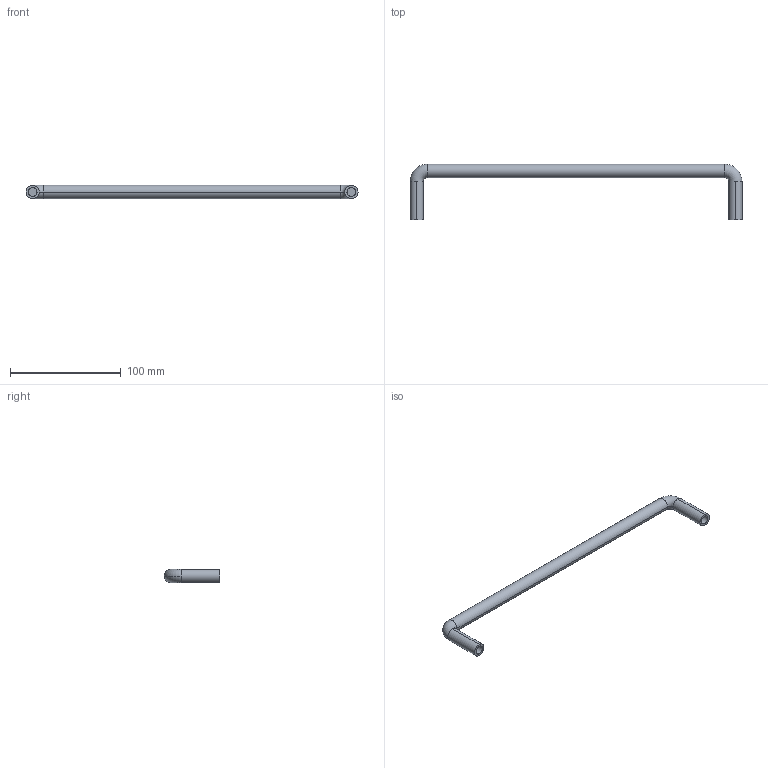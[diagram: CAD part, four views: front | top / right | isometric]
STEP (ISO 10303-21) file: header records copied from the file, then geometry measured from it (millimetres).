
FILE_DESCRIPTION (( 'STEP AP214' ), '1' );
FILE_NAME ('A84 KA-1251-14.STEP', '2012-02-22T02:01:23', ( '' ), ( '' ), 'SwSTEP 2.0', 'SolidWorks 2012', '' );
FILE_SCHEMA (( 'AUTOMOTIVE_DESIGN' ));
Length unit declared in the file: millimetre
Products named in the file (1): A84 KA-1251-14
Bounding box: 300 x 50 x 12 mm (x, y, z)
Volume: 40597 mm3; surface area: 14596.3 mm2
Topology: 1 solids, 1 shells, 18 faces, 38 edges, 24 vertices
Faces by surface type: cylinder 10, torus 4, plane 4
Entity records: 532 total; most frequent: DIRECTION 104, CARTESIAN_POINT 81, ORIENTED_EDGE 76, AXIS2_PLACEMENT_3D 47, EDGE_CURVE 38, CIRCLE 28, VERTEX_POINT 24, EDGE_LOOP 20
